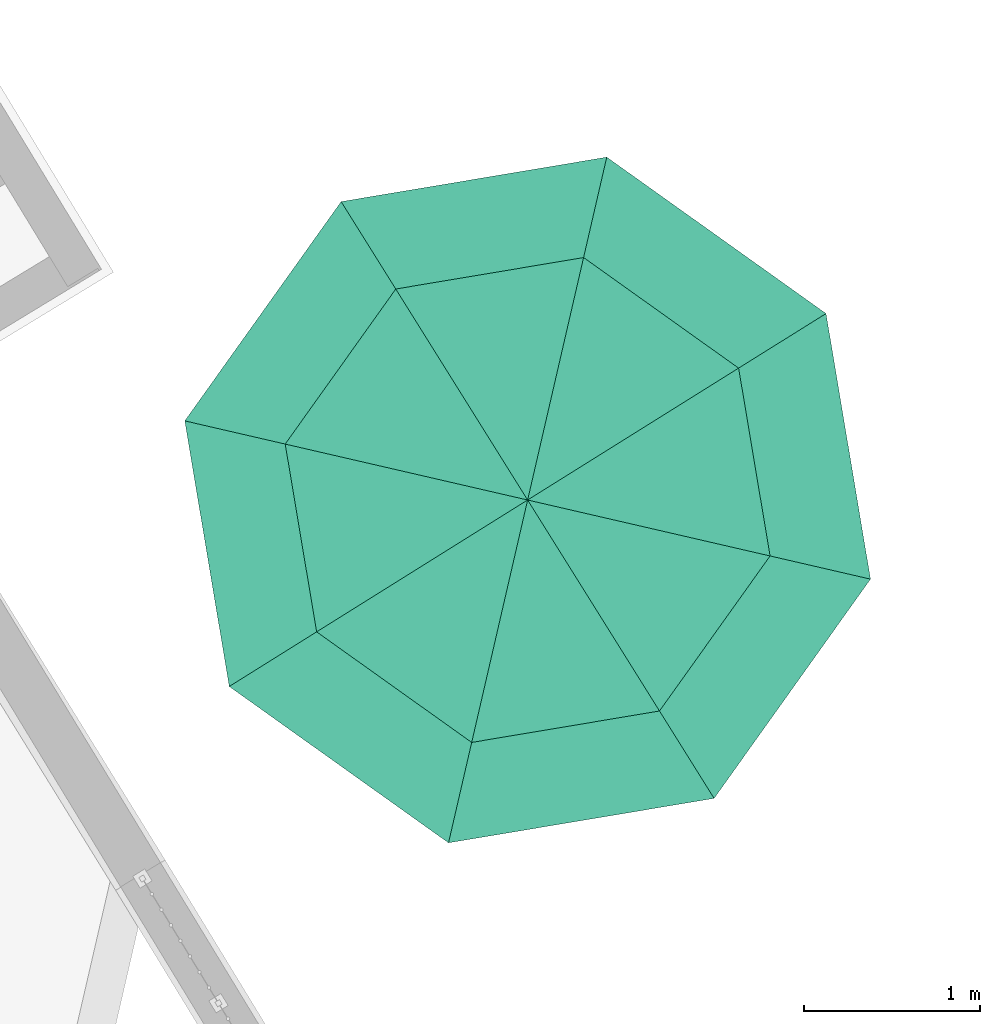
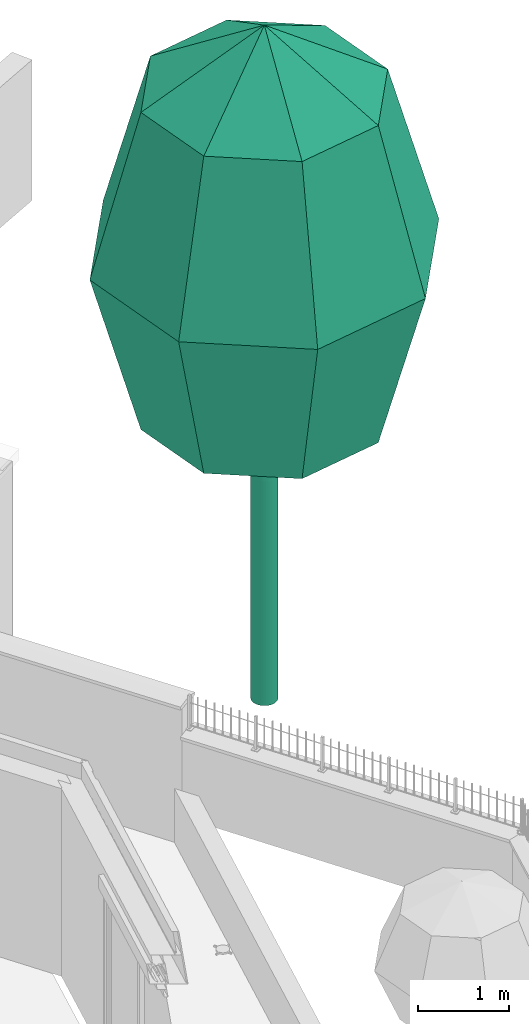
# One storey, part 111 of 119: 1 flow terminal.
"""IFC2X3 building model written with IfcOpenShell, lengths in metres."""

from ifc_helpers import new_model, entity, si_unit, converted_unit, derived_unit, money_unit, direction, frame, origin_with_axes, place, context, subcontext, project, spatial, faceted_brep, source, transform, mapped, type_object, element, save


model = new_model("IFC2X3")

# Units and contexts
model_context = context("Model", 3, precision=1e-05, world=origin_with_axes(), true_north=direction((0.0, 1.0)))
body_context = subcontext(model_context, "Body", "Model", "MODEL_VIEW")
ifc_project = project(units=[si_unit("LENGTHUNIT", "METRE"), si_unit("AREAUNIT", "SQUARE_METRE"), si_unit("VOLUMEUNIT", "CUBIC_METRE"), converted_unit("PLANEANGLEUNIT", "DEGREE", entity("IfcPlaneAngleMeasure", 0.0174532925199), si_unit("PLANEANGLEUNIT", "RADIAN"), dimensions=[0, 0, 0, 0, 0, 0, 0]), si_unit("SOLIDANGLEUNIT", "STERADIAN"), money_unit("EUR"), converted_unit("TIMEUNIT", "Year", entity("IfcTimeMeasure", 31556926.0), si_unit("TIMEUNIT", "SECOND"), dimensions=[0, 0, 1, 0, 0, 0, 0]), si_unit("MASSUNIT", "GRAM", prefix="KILO"), si_unit("THERMODYNAMICTEMPERATUREUNIT", "DEGREE_CELSIUS"), si_unit("LUMINOUSINTENSITYUNIT", "LUMEN"), si_unit("ENERGYUNIT", "JOULE", prefix="MEGA"), derived_unit("THERMALCONDUCTANCEUNIT", [(si_unit("POWERUNIT", "WATT"), 1), (si_unit("LENGTHUNIT", "METRE"), -1), (si_unit("THERMODYNAMICTEMPERATUREUNIT", "KELVIN"), -1)]), derived_unit("SPECIFICHEATCAPACITYUNIT", [(si_unit("ENERGYUNIT", "JOULE"), 1), (si_unit("MASSUNIT", "GRAM", prefix="KILO"), -1), (si_unit("THERMODYNAMICTEMPERATUREUNIT", "KELVIN"), -1)]), derived_unit("MASSDENSITYUNIT", [(si_unit("MASSUNIT", "GRAM", prefix="KILO"), 1), (si_unit("VOLUMEUNIT", "CUBIC_METRE"), -1)])], contexts=[model_context])

# Site, building, storey
site_placement = place(None, origin_with_axes())
site = spatial("IfcSite", under=ifc_project, at=site_placement, Name="Site", CompositionType="ELEMENT")
building_placement = place(site_placement, origin_with_axes())
building = spatial("IfcBuilding", under=site, at=building_placement, Name="Bâtiment", CompositionType="ELEMENT")
storey_placement = place(building_placement, origin_with_axes())
storey = spatial("IfcBuildingStorey", under=building, at=storey_placement, Name="Rez-de-chaussée", CompositionType="ELEMENT", Elevation=0.0)

# Flow terminal
air_terminal_type = type_object("IfcAirTerminalType", Name="Modèle arbre conceptuel 23", PredefinedType="NOTDEFINED")
shared_shape = source(origin_with_axes(), body_context, "Body", "Brep", [
    faceted_brep([(-0.147721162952, -0.02604722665, 0.0), (-0.15, 0.0, 0.0), (-0.147721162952, 0.02604722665, 0.0), (-0.140953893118, 0.0513030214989, 0.0), (-0.129903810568, 0.075, 0.0), (-0.114906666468, 0.096418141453, 0.0), (-0.096418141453, 0.114906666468, 0.0), (-0.075, 0.129903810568, 0.0), (-0.0513030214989, 0.140953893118, 0.0), (-0.02604722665, 0.147721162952, 0.0), (0.0, 0.15, 0.0), (0.02604722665, 0.147721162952, 0.0), (0.0513030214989, 0.140953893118, 0.0), (0.075, 0.129903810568, 0.0), (0.096418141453, 0.114906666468, 0.0), (0.114906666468, 0.096418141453, 0.0), (0.129903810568, 0.075, 0.0), (0.140953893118, 0.0513030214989, 0.0), (0.147721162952, 0.02604722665, 0.0), (0.15, 0.0, 0.0), (0.147721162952, -0.02604722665, 0.0), (0.140953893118, -0.0513030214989, 0.0), (0.129903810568, -0.075, 0.0), (0.114906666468, -0.096418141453, 0.0), (0.096418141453, -0.114906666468, 0.0), (0.075, -0.129903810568, 0.0), (0.0513030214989, -0.140953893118, 0.0), (0.02604722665, -0.147721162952, 0.0), (0.0, -0.15, 0.0), (-0.02604722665, -0.147721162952, 0.0), (-0.0513030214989, -0.140953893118, 0.0), (-0.075, -0.129903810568, 0.0), (-0.096418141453, -0.114906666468, 0.0), (-0.114906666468, -0.096418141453, 0.0), (-0.129903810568, -0.075, 0.0), (-0.140953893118, -0.0513030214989, 0.0), (-0.147721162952, -0.02604722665, 3.0), (-0.15, 0.0, 3.0), (-0.147721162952, 0.02604722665, 3.0), (-0.140953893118, 0.0513030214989, 3.0), (-0.129903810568, 0.075, 3.0), (-0.114906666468, 0.096418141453, 3.0), (-0.096418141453, 0.114906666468, 3.0), (-0.075, 0.129903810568, 3.0), (-0.0513030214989, 0.140953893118, 3.0), (-0.02604722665, 0.147721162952, 3.0), (0.0, 0.15, 3.0), (0.02604722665, 0.147721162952, 3.0), (0.0513030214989, 0.140953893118, 3.0), (0.075, 0.129903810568, 3.0), (0.096418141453, 0.114906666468, 3.0), (0.114906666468, 0.096418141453, 3.0), (0.129903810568, 0.075, 3.0), (0.140953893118, 0.0513030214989, 3.0), (0.147721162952, 0.02604722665, 3.0), (0.15, 0.0, 3.0), (0.147721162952, -0.02604722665, 3.0), (0.140953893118, -0.0513030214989, 3.0), (0.129903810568, -0.075, 3.0), (0.114906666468, -0.096418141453, 3.0), (0.096418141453, -0.114906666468, 3.0), (0.075, -0.129903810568, 3.0), (0.0513030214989, -0.140953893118, 3.0), (0.02604722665, -0.147721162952, 3.0), (0.0, -0.15, 3.0), (-0.02604722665, -0.147721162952, 3.0), (-0.0513030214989, -0.140953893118, 3.0), (-0.075, -0.129903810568, 3.0), (-0.096418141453, -0.114906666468, 3.0), (-0.114906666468, -0.096418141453, 3.0), (-0.129903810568, -0.075, 3.0), (-0.140953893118, -0.0513030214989, 3.0)], [[[0, 1, 2, 3, 4, 5, 6, 7, 8, 9, 10, 11, 12, 13, 14, 15, 16, 17, 18, 19, 20, 21, 22, 23, 24, 25, 26, 27, 28, 29, 30, 31, 32, 33, 34, 35]], [[0, 36, 37, 1]], [[1, 37, 38, 2]], [[2, 38, 39, 3]], [[3, 39, 40, 4]], [[4, 40, 41, 5]], [[5, 41, 42, 6]], [[6, 42, 43, 7]], [[7, 43, 44, 8]], [[8, 44, 45, 9]], [[9, 45, 46, 10]], [[10, 46, 47, 11]], [[11, 47, 48, 12]], [[12, 48, 49, 13]], [[13, 49, 50, 14]], [[14, 50, 51, 15]], [[15, 51, 52, 16]], [[16, 52, 53, 17]], [[17, 53, 54, 18]], [[18, 54, 55, 19]], [[19, 55, 56, 20]], [[20, 56, 57, 21]], [[21, 57, 58, 22]], [[22, 58, 59, 23]], [[23, 59, 60, 24]], [[24, 60, 61, 25]], [[25, 61, 62, 26]], [[26, 62, 63, 27]], [[27, 63, 64, 28]], [[28, 64, 65, 29]], [[29, 65, 66, 30]], [[30, 66, 67, 31]], [[31, 67, 68, 32]], [[32, 68, 69, 33]], [[33, 69, 70, 34]], [[34, 70, 71, 35]], [[35, 71, 36, 0]], [[36, 71, 70, 69, 68, 67, 66, 65, 64, 63, 62, 61, 60, 59, 58, 57, 56, 55, 54, 53, 52, 51, 50, 49, 48, 47, 46, 45, 44, 43, 42, 41, 40, 39, 38, 37]]]),
    faceted_brep([(-0.147721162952, -0.02604722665, 3.0), (-0.15, 0.0, 3.0), (-0.147721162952, 0.02604722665, 3.0), (-0.140953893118, 0.0513030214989, 3.0), (-0.129903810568, 0.075, 3.0), (-0.114906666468, 0.096418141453, 3.0), (-0.096418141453, 0.114906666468, 3.0), (-0.075, 0.129903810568, 3.0), (-0.0513030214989, 0.140953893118, 3.0), (-0.02604722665, 0.147721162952, 3.0), (0.0, 0.15, 3.0), (0.02604722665, 0.147721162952, 3.0), (0.0513030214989, 0.140953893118, 3.0), (0.075, 0.129903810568, 3.0), (0.096418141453, 0.114906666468, 3.0), (0.114906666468, 0.096418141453, 3.0), (0.129903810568, 0.075, 3.0), (0.140953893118, 0.0513030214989, 3.0), (0.147721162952, 0.02604722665, 3.0), (0.15, 0.0, 3.0), (0.147721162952, -0.02604722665, 3.0), (0.140953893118, -0.0513030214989, 3.0), (0.129903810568, -0.075, 3.0), (0.114906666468, -0.096418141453, 3.0), (0.096418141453, -0.114906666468, 3.0), (0.075, -0.129903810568, 3.0), (0.0513030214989, -0.140953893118, 3.0), (0.02604722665, -0.147721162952, 3.0), (0.0, -0.15, 3.0), (-0.02604722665, -0.147721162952, 3.0), (-0.0513030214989, -0.140953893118, 3.0), (-0.075, -0.129903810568, 3.0), (-0.096418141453, -0.114906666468, 3.0), (-0.114906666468, -0.096418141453, 3.0), (-0.129903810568, -0.075, 3.0), (-0.140953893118, -0.0513030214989, 3.0), (0.0, 0.0, 6.0)], [[[0, 1, 2, 3, 4, 5, 6, 7, 8, 9, 10, 11, 12, 13, 14, 15, 16, 17, 18, 19, 20, 21, 22, 23, 24, 25, 26, 27, 28, 29, 30, 31, 32, 33, 34, 35]], [[0, 36, 1]], [[1, 36, 2]], [[2, 36, 3]], [[3, 36, 4]], [[4, 36, 5]], [[5, 36, 6]], [[6, 36, 7]], [[7, 36, 8]], [[8, 36, 9]], [[9, 36, 10]], [[10, 36, 11]], [[11, 36, 12]], [[12, 36, 13]], [[13, 36, 14]], [[14, 36, 15]], [[15, 36, 16]], [[16, 36, 17]], [[17, 36, 18]], [[18, 36, 19]], [[19, 36, 20]], [[20, 36, 21]], [[21, 36, 22]], [[22, 36, 23]], [[23, 36, 24]], [[24, 36, 25]], [[25, 36, 26]], [[26, 36, 27]], [[27, 36, 28]], [[28, 36, 29]], [[29, 36, 30]], [[30, 36, 31]], [[31, 36, 32]], [[32, 36, 33]], [[33, 36, 34]], [[34, 36, 35]], [[35, 36, 0]]]),
    faceted_brep([(-1.41421356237, 0.0, 8.12132034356), (-1.0, -1.0, 8.12132034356), (0.0, 0.0, 9.0), (-2.0, 0.0, 6.0), (-1.41421356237, -1.41421356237, 6.0), (0.0, -1.41421356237, 8.12132034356), (-1.0, 1.0, 8.12132034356), (-1.41421356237, 0.0, 3.87867965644), (-1.0, -1.0, 3.87867965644), (0.0, -2.0, 6.0), (-1.41421356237, 1.41421356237, 6.0), (1.0, -1.0, 8.12132034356), (0.0, 1.41421356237, 8.12132034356), (0.0, 0.0, 3.0), (0.0, -1.41421356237, 3.87867965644), (-1.0, 1.0, 3.87867965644), (1.41421356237, -1.41421356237, 6.0), (0.0, 2.0, 6.0), (1.41421356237, 0.0, 8.12132034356), (1.0, 1.0, 8.12132034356), (1.0, -1.0, 3.87867965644), (0.0, 1.41421356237, 3.87867965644), (2.0, 0.0, 6.0), (1.41421356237, 1.41421356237, 6.0), (1.41421356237, 0.0, 3.87867965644), (1.0, 1.0, 3.87867965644)], [[[0, 1, 2]], [[3, 4, 1, 0]], [[1, 5, 2]], [[6, 0, 2]], [[7, 8, 4, 3]], [[4, 9, 5, 1]], [[10, 3, 0, 6]], [[5, 11, 2]], [[12, 6, 2]], [[13, 8, 7]], [[8, 14, 9, 4]], [[15, 7, 3, 10]], [[9, 16, 11, 5]], [[17, 10, 6, 12]], [[11, 18, 2]], [[19, 12, 2]], [[13, 14, 8]], [[13, 7, 15]], [[14, 20, 16, 9]], [[21, 15, 10, 17]], [[16, 22, 18, 11]], [[23, 17, 12, 19]], [[18, 19, 2]], [[13, 20, 14]], [[13, 15, 21]], [[20, 24, 22, 16]], [[25, 21, 17, 23]], [[22, 23, 19, 18]], [[13, 24, 20]], [[13, 21, 25]], [[24, 25, 23, 22]], [[13, 25, 24]]]),
])
flow_terminal_placement = place(storey_placement, frame((6.59622908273, 21.4212833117, 0.0), z_axis=(0.0, 0.0, 1.0), x_axis=(-0.224876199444, -0.974387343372, 0.0)))
element("IfcFlowTerminal", 1, at=flow_terminal_placement, inside=storey, type_object=air_terminal_type, Name="Prunus ceradifera", ObjectType="AIR TERMINAL", context=body_context, shape_type="MappedRepresentation", body=[
    mapped(shared_shape, transform((0.0, 0.0, 0.0))),
])

save(model, "model.ifc")
